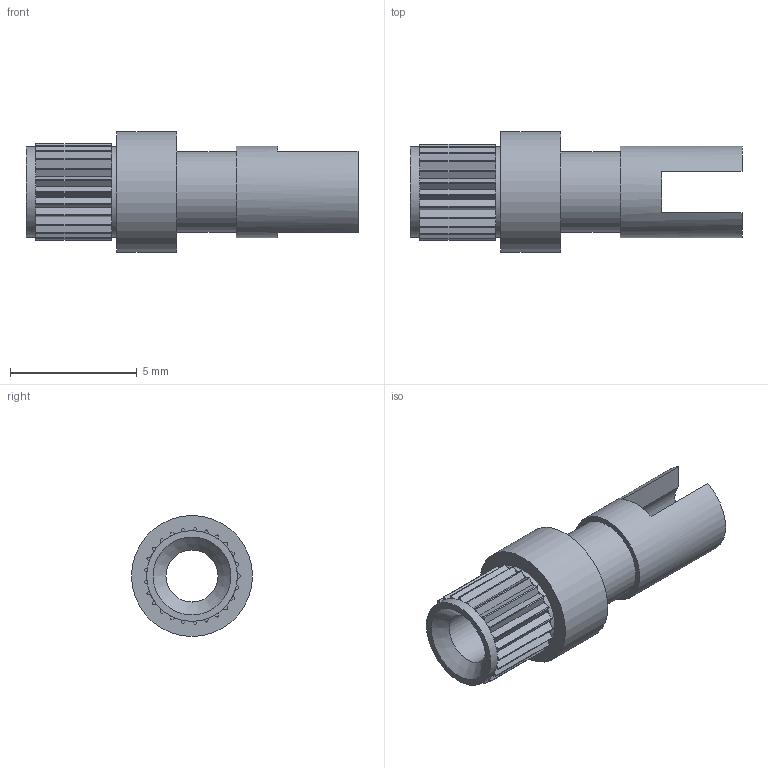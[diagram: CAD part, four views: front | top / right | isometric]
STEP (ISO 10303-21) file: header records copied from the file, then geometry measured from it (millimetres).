
FILE_DESCRIPTION(/* description */ (''),/* implementation_level */ '2;1');
FILE_NAME(/* name */ 'Z:\STEP folder\140-1578-03.ipt.stp',/* time_stamp */ '2016-12-07T10:39:10+00:00',/* author */ ('Paul Karlsons'),/* organization */ (''),/* preprocessor_version */ 'ST-DEVELOPER v15.2',/* originating_system */ 'Autodesk Inventor 2014',/* authorisation */ '');
FILE_SCHEMA (('AUTOMOTIVE_DESIGN { 1 0 10303 214 3 1 1 }'));
Length unit declared in the file: millimetre
Products named in the file (1): 140-1578-03
Bounding box: 13.11 x 4.78 x 4.78 mm (x, y, z)
Volume: 93.2 mm3; surface area: 277.4 mm2
Topology: 1 solids, 1 shells, 194 faces, 469 edges, 279 vertices
Faces by surface type: plane 162, cylinder 31, cone 1
Full cylindrical faces by diameter (mm): 2.057 x1, 3.175 x1, 3.58 x2, 3.606 x1, 4.775 x1
Entity records: 5526 total; most frequent: DIRECTION 1015, CARTESIAN_POINT 928, ORIENTED_EDGE 916, EDGE_CURVE 458, AXIS2_PLACEMENT_3D 362, LINE 291, VECTOR 291, VERTEX_POINT 275
